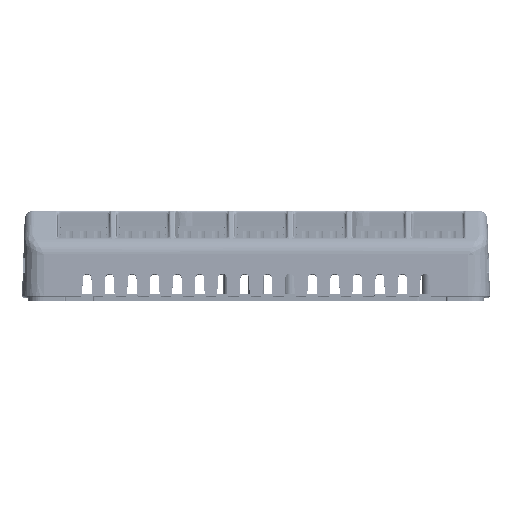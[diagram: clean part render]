
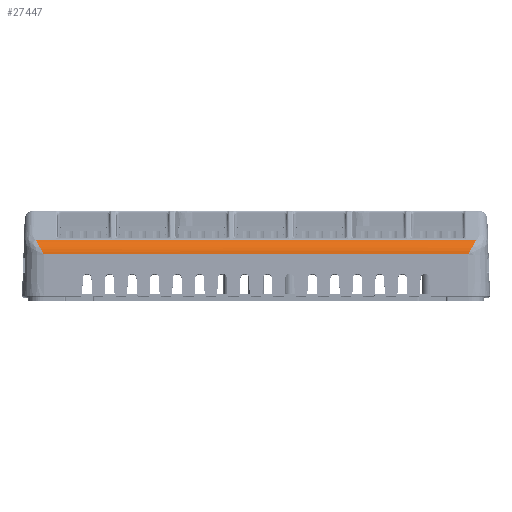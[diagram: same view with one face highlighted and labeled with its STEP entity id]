
A CAD part, top view. The second image highlights one B-rep face of the part: STEP entity #27447.
In plain terms, the highlighted cylindrical face has radius 5.08 mm (diameter 10.16 mm), a partial arc.
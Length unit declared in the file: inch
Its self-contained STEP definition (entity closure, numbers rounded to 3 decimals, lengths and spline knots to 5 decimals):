
#6937 = CARTESIAN_POINT ( 'NONE',  ( 2.27331, 0.13542, 1.7065 ) ) ;
#12435 = CARTESIAN_POINT ( 'NONE',  ( -2.26561, 0.12116, 1.70699 ) ) ;
#15338 = CARTESIAN_POINT ( 'NONE',  ( 2.29605, 0.17742, 1.6974 ) ) ;
#20843 = CARTESIAN_POINT ( 'NONE',  ( -2.29605, 0.17741, 1.6974 ) ) ;
#27447 = ADVANCED_FACE ( 'NONE', ( #267788 ), #379506, .T. ) ;
#35693 = EDGE_CURVE ( 'NONE', #668620, #629430, #438183, .T. ) ;
#63915 = ORIENTED_EDGE ( 'NONE', *, *, #464055, .T. ) ;
#67040 = CARTESIAN_POINT ( 'NONE',  ( 2.31754, 0.21675, 1.67897 ) ) ;
#68288 = CARTESIAN_POINT ( 'NONE',  ( -2.33706, 0.25192, 1.65287 ) ) ;
#69039 = LINE ( 'NONE', #579251, #170470 ) ;
#71279 = CARTESIAN_POINT ( 'NONE',  ( 2.34297, 0.26237, 1.6423 ) ) ;
#72536 = CARTESIAN_POINT ( 'NONE',  ( -2.31754, 0.21675, 1.67897 ) ) ;
#79645 = CARTESIAN_POINT ( 'NONE',  ( 2.28099, 0.14963, 1.70447 ) ) ;
#80903 = CARTESIAN_POINT ( 'NONE',  ( -2.31404, 0.21037, 1.68262 ) ) ;
#113731 = VECTOR ( 'NONE', #799588, 39.37008 ) ;
#148202 = CARTESIAN_POINT ( 'NONE',  ( -2.34843, 0.27178, 1.63025 ) ) ;
#152117 = CARTESIAN_POINT ( 'NONE',  ( 2.3475, 0.27178, 1.63025 ) ) ;
#170470 = VECTOR ( 'NONE', #844982, 39.37008 ) ;
#183082 = ORIENTED_EDGE ( 'NONE', *, *, #598060, .F. ) ;
#205292 = CARTESIAN_POINT ( 'NONE',  ( -2.3243, 0.229, 1.67104 ) ) ;
#225664 = VERTEX_POINT ( 'NONE', #426417 ) ;
#265258 = CARTESIAN_POINT ( 'NONE',  ( -2.27521, 0.13893, 1.70561 ) ) ;
#267788 = FACE_OUTER_BOUND ( 'NONE', #670554, .T. ) ;
#280440 = DIRECTION ( 'NONE',  ( 0., 0., -1. ) ) ;
#282169 = CARTESIAN_POINT ( 'NONE',  ( -2.30339, 0.19092, 1.69238 ) ) ;
#290865 = EDGE_CURVE ( 'NONE', #486410, #629430, #779430, .T. ) ;
#292600 = CARTESIAN_POINT ( 'NONE',  ( 2.34843, 0.27178, 1.63025 ) ) ;
#328358 = CARTESIAN_POINT ( 'NONE',  ( 2.33706, 0.25192, 1.65286 ) ) ;
#336700 = CARTESIAN_POINT ( 'NONE',  ( 2.26561, 0.12116, 1.70699 ) ) ;
#342182 = CARTESIAN_POINT ( 'NONE',  ( -2.26945, 0.12828, 1.70665 ) ) ;
#379506 = CYLINDRICAL_SURFACE ( 'NONE', #660239, 0.2 ) ;
#402314 = CARTESIAN_POINT ( 'NONE',  ( -2.32757, 0.2349, 1.66674 ) ) ;
#406579 = CARTESIAN_POINT ( 'NONE',  ( -2.28095, 0.14954, 1.70409 ) ) ;
#409023 = DIRECTION ( 'NONE',  ( 1., 0., 0. ) ) ;
#410304 = B_SPLINE_CURVE_WITH_KNOTS ( 'NONE', 3,
 ( #801120, #466706, #68288, #402314, #205292, #72536, #80903, #282169, #20843, #599623, #406579, #265258, #796868, #342182, #668201, #12435 ),
 .UNSPECIFIED., .F., .F.,
 ( 4, 2, 2, 2, 2, 2, 2, 4 ),
 ( 0., 0.00121, 0.00182, 0.00243, 0.00364, 0.00425, 0.00456, 0.00486 ),
 .UNSPECIFIED. ) ;
#426417 = CARTESIAN_POINT ( 'NONE',  ( -2.26561, 0.12116, 1.70699 ) ) ;
#438183 = B_SPLINE_CURVE_WITH_KNOTS ( 'NONE', 3,
 ( #336700, #6937, #79645, #15338, #598362, #469687, #67040, #533997, #658442, #328358, #71279, #292600 ),
 .UNSPECIFIED., .F., .F.,
 ( 4, 2, 2, 2, 2, 4 ),
 ( -0.00001, 0.00122, 0.00246, 0.00307, 0.00369, 0.00493 ),
 .UNSPECIFIED. ) ;
#464055 = EDGE_CURVE ( 'NONE', #486410, #225664, #410304, .T. ) ;
#466706 = CARTESIAN_POINT ( 'NONE',  ( -2.34297, 0.26237, 1.6423 ) ) ;
#469687 = CARTESIAN_POINT ( 'NONE',  ( 2.31404, 0.21037, 1.68261 ) ) ;
#486106 = CARTESIAN_POINT ( 'NONE',  ( 2.3475, 0.11418, 1.50712 ) ) ;
#486410 = VERTEX_POINT ( 'NONE', #148202 ) ;
#533997 = CARTESIAN_POINT ( 'NONE',  ( 2.3243, 0.229, 1.67104 ) ) ;
#579251 = CARTESIAN_POINT ( 'NONE',  ( 2.3475, 0.12116, 1.70699 ) ) ;
#589182 = ORIENTED_EDGE ( 'NONE', *, *, #35693, .T. ) ;
#598060 = EDGE_CURVE ( 'NONE', #668620, #225664, #69039, .T. ) ;
#598362 = CARTESIAN_POINT ( 'NONE',  ( 2.3034, 0.19093, 1.69237 ) ) ;
#599623 = CARTESIAN_POINT ( 'NONE',  ( -2.28475, 0.15657, 1.7027 ) ) ;
#610166 = CARTESIAN_POINT ( 'NONE',  ( 2.26561, 0.12116, 1.70699 ) ) ;
#629430 = VERTEX_POINT ( 'NONE', #839879 ) ;
#658442 = CARTESIAN_POINT ( 'NONE',  ( 2.32757, 0.2349, 1.66674 ) ) ;
#660239 = AXIS2_PLACEMENT_3D ( 'NONE', #486106, #409023, #280440 ) ;
#668201 = CARTESIAN_POINT ( 'NONE',  ( -2.2675, 0.12467, 1.70687 ) ) ;
#668620 = VERTEX_POINT ( 'NONE', #610166 ) ;
#670554 = EDGE_LOOP ( 'NONE', ( #183082, #589182, #673690, #63915 ) ) ;
#673690 = ORIENTED_EDGE ( 'NONE', *, *, #290865, .F. ) ;
#779430 = LINE ( 'NONE', #152117, #113731 ) ;
#796868 = CARTESIAN_POINT ( 'NONE',  ( -2.2733, 0.13539, 1.70602 ) ) ;
#799588 = DIRECTION ( 'NONE',  ( 1., 0., 0. ) ) ;
#801120 = CARTESIAN_POINT ( 'NONE',  ( -2.34843, 0.27178, 1.63025 ) ) ;
#839879 = CARTESIAN_POINT ( 'NONE',  ( 2.34843, 0.27178, 1.63025 ) ) ;
#844982 = DIRECTION ( 'NONE',  ( -1., 0., 0. ) ) ;
